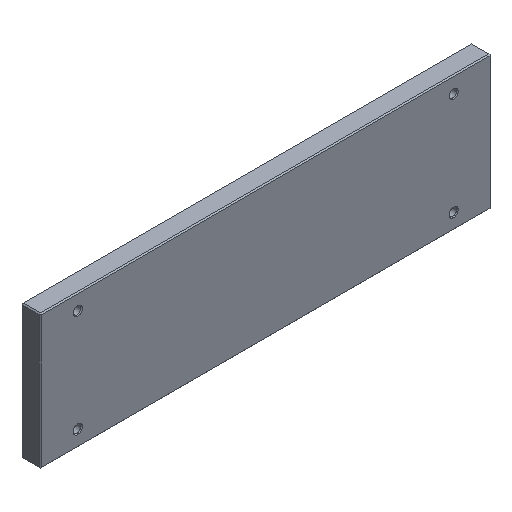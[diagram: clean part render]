
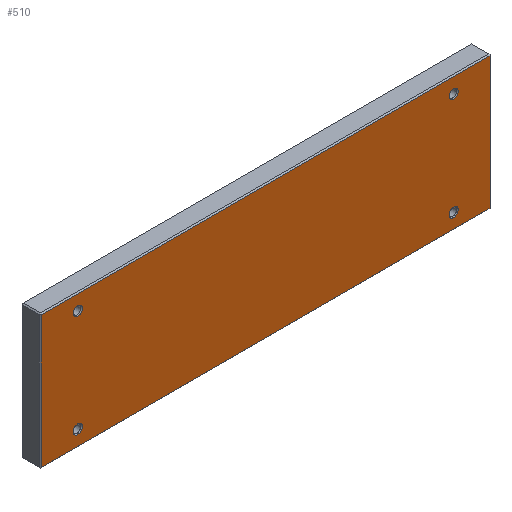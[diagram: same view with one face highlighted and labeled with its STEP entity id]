
A CAD part, isometric view. The second image highlights one B-rep face of the part: STEP entity #510.
In plain terms, the highlighted planar face has unit normal (0, -1, 0).
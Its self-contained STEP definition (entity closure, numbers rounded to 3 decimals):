
#36=CIRCLE('',#558,4.);
#37=CIRCLE('',#559,4.);
#38=CIRCLE('',#560,4.);
#39=CIRCLE('',#561,4.);
#96=ORIENTED_EDGE('',*,*,#216,.F.);
#97=ORIENTED_EDGE('',*,*,#217,.F.);
#98=ORIENTED_EDGE('',*,*,#218,.F.);
#99=ORIENTED_EDGE('',*,*,#219,.F.);
#100=ORIENTED_EDGE('',*,*,#220,.F.);
#101=ORIENTED_EDGE('',*,*,#210,.F.);
#102=ORIENTED_EDGE('',*,*,#221,.T.);
#103=ORIENTED_EDGE('',*,*,#212,.T.);
#210=EDGE_CURVE('',#267,#264,#318,.T.);
#212=EDGE_CURVE('',#269,#268,#320,.T.);
#216=EDGE_CURVE('',#272,#272,#36,.T.);
#217=EDGE_CURVE('',#273,#273,#37,.T.);
#218=EDGE_CURVE('',#274,#274,#38,.T.);
#219=EDGE_CURVE('',#275,#275,#39,.T.);
#220=EDGE_CURVE('',#264,#268,#324,.T.);
#221=EDGE_CURVE('',#267,#269,#325,.T.);
#264=VERTEX_POINT('',#796);
#267=VERTEX_POINT('',#802);
#268=VERTEX_POINT('',#806);
#269=VERTEX_POINT('',#808);
#272=VERTEX_POINT('',#816);
#273=VERTEX_POINT('',#818);
#274=VERTEX_POINT('',#820);
#275=VERTEX_POINT('',#822);
#318=LINE('',#803,#366);
#320=LINE('',#807,#368);
#324=LINE('',#823,#372);
#325=LINE('',#824,#373);
#366=VECTOR('',#645,1000.);
#368=VECTOR('',#649,1000.);
#372=VECTOR('',#663,1000.);
#373=VECTOR('',#664,1000.);
#396=EDGE_LOOP('',(#96));
#397=EDGE_LOOP('',(#97));
#398=EDGE_LOOP('',(#98));
#399=EDGE_LOOP('',(#99));
#400=EDGE_LOOP('',(#100,#101,#102,#103));
#446=FACE_BOUND('',#396,.T.);
#447=FACE_BOUND('',#397,.T.);
#448=FACE_BOUND('',#398,.T.);
#449=FACE_BOUND('',#399,.T.);
#450=FACE_BOUND('',#400,.T.);
#492=PLANE('',#557);
#510=ADVANCED_FACE('',(#446,#447,#448,#449,#450),#492,.F.);
#557=AXIS2_PLACEMENT_3D('',#814,#653,#654);
#558=AXIS2_PLACEMENT_3D('',#815,#655,#656);
#559=AXIS2_PLACEMENT_3D('',#817,#657,#658);
#560=AXIS2_PLACEMENT_3D('',#819,#659,#660);
#561=AXIS2_PLACEMENT_3D('',#821,#661,#662);
#645=DIRECTION('',(0.,0.,-1.));
#649=DIRECTION('',(0.,0.,-1.));
#653=DIRECTION('',(0.,1.,0.));
#654=DIRECTION('',(0.,0.,1.));
#655=DIRECTION('',(0.,-1.,0.));
#656=DIRECTION('',(0.,0.,-1.));
#657=DIRECTION('',(0.,-1.,0.));
#658=DIRECTION('',(0.,0.,-1.));
#659=DIRECTION('',(0.,-1.,0.));
#660=DIRECTION('',(0.,0.,-1.));
#661=DIRECTION('',(0.,-1.,0.));
#662=DIRECTION('',(0.,0.,-1.));
#663=DIRECTION('',(-1.,0.,0.));
#664=DIRECTION('',(-1.,0.,0.));
#796=CARTESIAN_POINT('',(197.,0.,-58.));
#802=CARTESIAN_POINT('',(197.,0.,58.));
#803=CARTESIAN_POINT('',(197.,0.,59.));
#806=CARTESIAN_POINT('',(-197.,0.,-58.));
#807=CARTESIAN_POINT('',(-197.,0.,59.));
#808=CARTESIAN_POINT('',(-197.,0.,58.));
#814=CARTESIAN_POINT('',(-197.,0.,59.));
#815=CARTESIAN_POINT('',(165.,0.,45.));
#816=CARTESIAN_POINT('',(165.,0.,41.));
#817=CARTESIAN_POINT('',(-165.,0.,45.));
#818=CARTESIAN_POINT('',(-165.,0.,41.));
#819=CARTESIAN_POINT('',(165.,0.,-45.));
#820=CARTESIAN_POINT('',(165.,0.,-49.));
#821=CARTESIAN_POINT('',(-165.,0.,-45.));
#822=CARTESIAN_POINT('',(-165.,0.,-49.));
#823=CARTESIAN_POINT('',(198.,0.,-58.));
#824=CARTESIAN_POINT('',(198.,0.,58.));
